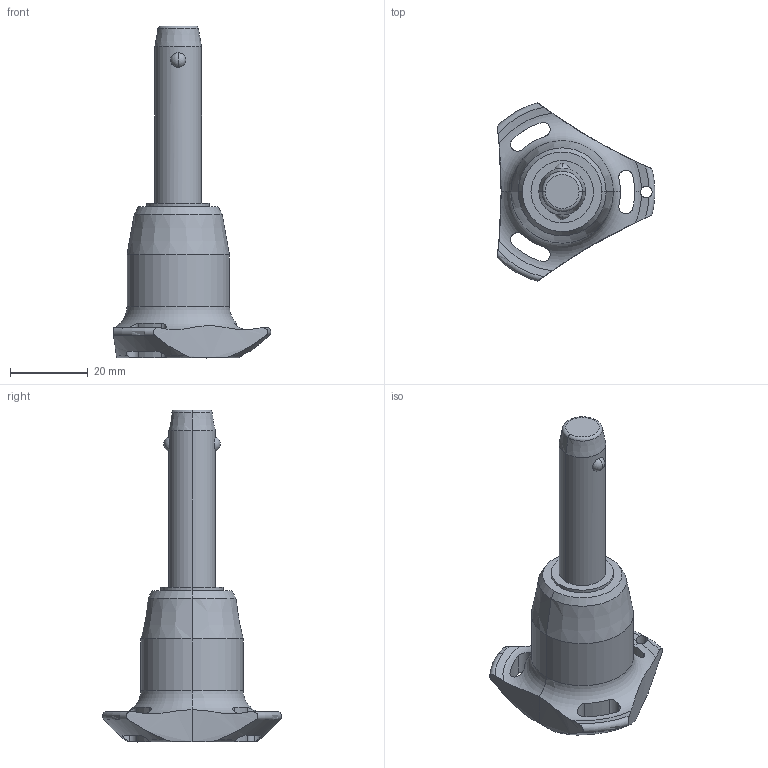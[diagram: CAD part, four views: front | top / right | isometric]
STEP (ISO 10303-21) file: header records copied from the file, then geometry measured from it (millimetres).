
FILE_DESCRIPTION (( 'STEP AP203' ), '1' );
FILE_NAME ('QR1704.M12-035-S.step', '2025-11-12T09:24:08', ( '' ), ( '' ), 'SwSTEP 2.0', 'SolidWorks 2019', '' );
FILE_SCHEMA (( 'CONFIG_CONTROL_DESIGN' ));
Length unit declared in the file: millimetre
Products named in the file (1): QR1704.M12-035-S
Bounding box: 40.5 x 45.88 x 85.3 mm (x, y, z)
Volume: 27093.6 mm3; surface area: 7657.1 mm2
Topology: 1 solids, 1 shells, 65 faces, 178 edges, 113 vertices
Faces by surface type: cylinder 30, cone 14, torus 11, sphere 6, plane 4
Entity records: 2862 total; most frequent: CARTESIAN_POINT 1173, ORIENTED_EDGE 356, DIRECTION 329, EDGE_CURVE 178, AXIS2_PLACEMENT_3D 147, VERTEX_POINT 113, CIRCLE 81, EDGE_LOOP 71
